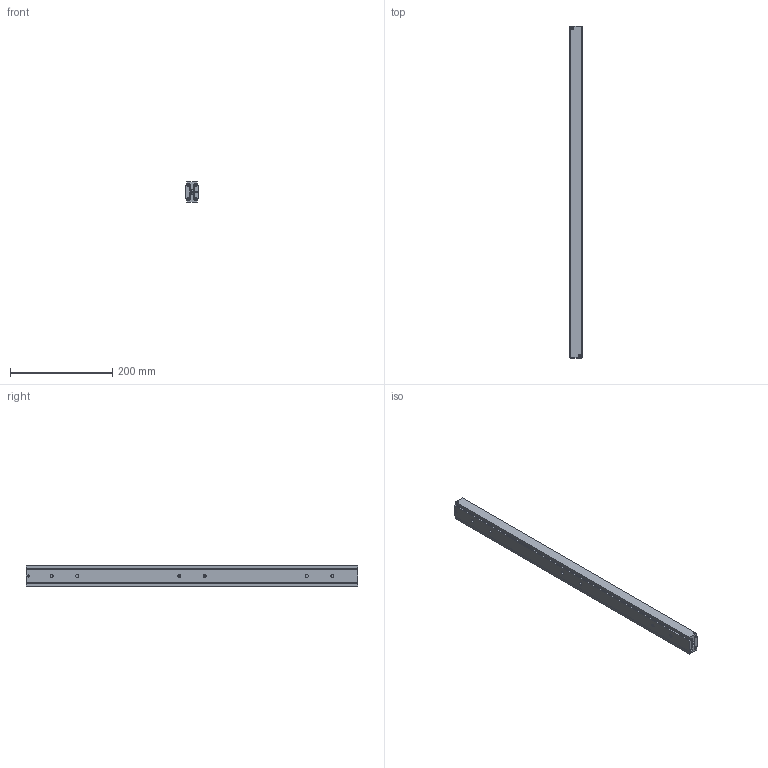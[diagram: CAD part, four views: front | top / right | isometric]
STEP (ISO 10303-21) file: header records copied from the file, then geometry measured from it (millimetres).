
FILE_DESCRIPTION(/* description */ (''),/* implementation_level */ '2;1');
FILE_NAME(/* name */ 'C:\Users\Miluxor\Desktop\Miluxor Schienen\Original Zeichnungen\Zeichnungen Schienen Komplett\MX-DTP40\MX-DTP40.065\MX-DTP40.065_eingefahren.stp',/* time_stamp */ '2019-10-07T09:21:46+02:00',/* author */ ('Miluxor'),/* organization */ (''),/* preprocessor_version */ 'ST-DEVELOPER v16.13',/* originating_system */ 'AutoCAD Mechanical',/* authorisation */ '');
FILE_SCHEMA (('AUTOMOTIVE_DESIGN { 1 0 10303 214 3 1 1 }'));
Products named in the file (1): Product
Bounding box: 24 x 650 x 40.5 mm (x, y, z)
Volume: 492933.5 mm3; surface area: 249024.9 mm2
Topology: 83 solids, 83 shells, 562 faces, 1436 edges, 952 vertices
Faces by surface type: plane 352, cylinder 80, bspline 68, sphere 48, cone 8, torus 6
Full cylindrical faces by diameter (mm): 4 x2, 6 x60, 10 x2
Entity records: 53561 total; most frequent: CARTESIAN_POINT 40805, ORIENTED_EDGE 2504, DIRECTION 2300, EDGE_CURVE 1252, VERTEX_POINT 942, LINE 834, VECTOR 834, EDGE_LOOP 768
